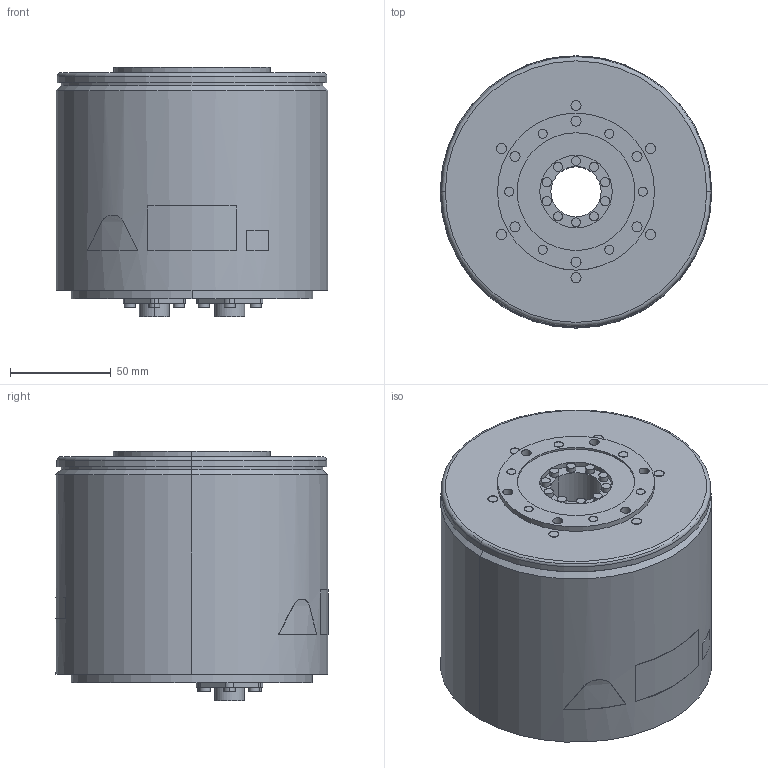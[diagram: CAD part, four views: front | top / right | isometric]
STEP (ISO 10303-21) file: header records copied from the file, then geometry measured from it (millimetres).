
FILE_DESCRIPTION (( 'STEP AP203' ), '1' );
FILE_NAME ('sgm7f_14b_a1_.STEP', '2016-07-24T06:27:00', ( '匠エンジニアリング山之内' ), ( 'TAKUMI-Engniaring' ), 'SwSTEP 2.0', 'SolidWorks 2006303', '' );
FILE_SCHEMA (( 'CONFIG_CONTROL_DESIGN' ));
Length unit declared in the file: millimetre
Products named in the file (1): sgm7f_14b_a1_
Bounding box: 135 x 135.21 x 124.1 mm (x, y, z)
Volume: 1538396.3 mm3; surface area: 105820 mm2
Topology: 1 solids, 1 shells, 326 faces, 709 edges, 470 vertices
Faces by surface type: cylinder 182, plane 138, cone 4, torus 2
Entity records: 9212 total; most frequent: DIRECTION 1743, CARTESIAN_POINT 1578, ORIENTED_EDGE 1418, AXIS2_PLACEMENT_3D 713, EDGE_CURVE 709, VERTEX_POINT 470, EDGE_LOOP 413, CIRCLE 386
